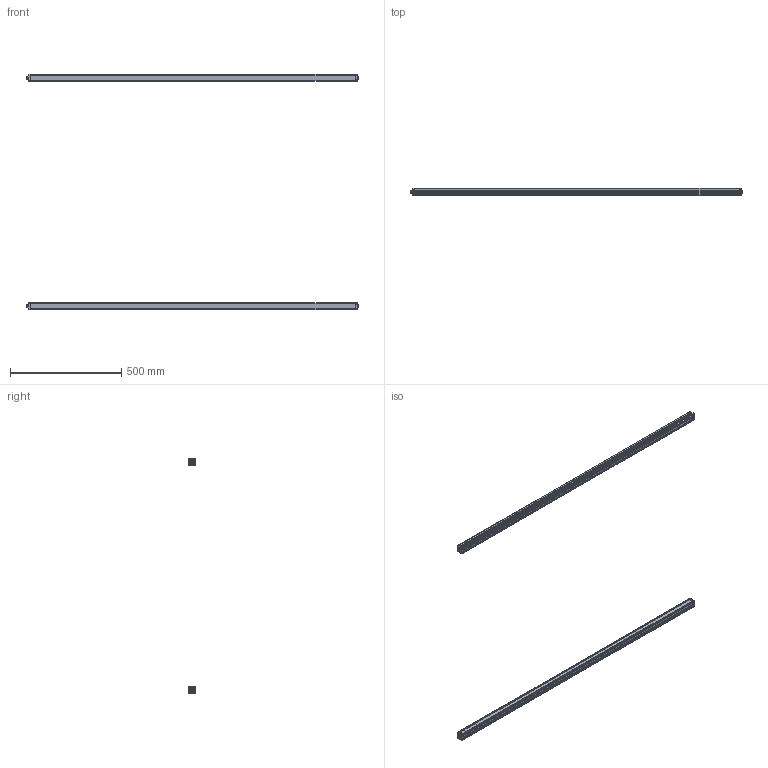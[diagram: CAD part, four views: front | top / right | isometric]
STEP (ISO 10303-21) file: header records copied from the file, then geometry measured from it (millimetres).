
FILE_DESCRIPTION(/* description */ (''),/* implementation_level */ '2;1');
FILE_NAME(/* name */ 'THS20-72.stp',/* time_stamp */ '2023-12-25T14:37:16+08:00',/* author */ (''),/* organization */ (''),/* preprocessor_version */ 'ST-DEVELOPER v16',/* originating_system */ 'SIEMENS PLM Software NX 11.0',/* authorisation */ '');
FILE_SCHEMA (('AP203_CONFIGURATION_CONTROLLED_3D_DESIGN_OF_MECHANICAL_PARTS_AND_ASSEMBLIES_MIM_LF { 1 0 10303 403 2 1 2}'));
Length unit declared in the file: millimetre
Products named in the file (10): 16; 14; 121125; 13; 102; 101; 111129; ASM0002_ASM; 0000_ASM1131; THS20-70_stp
Assembly tree (10 placements, depth 4):
  THS20-70_stp
    0000_ASM1131  x2
      111129
      101
      102
      13
      121125
      ASM0002_ASM
        14
        16
Bounding box: 1492 x 30.3 x 1058.6 mm (x, y, z)
Volume: 914284.2 mm3; surface area: 979821.9 mm2
Topology: 10 solids, 14 shells, 1080 faces, 3010 edges, 1986 vertices
Faces by surface type: plane 764, cylinder 288, cone 28
Entity records: 18484 total; most frequent: CARTESIAN_POINT 3097, ORIENTED_EDGE 3006, DIRECTION 2915, EDGE_CURVE 1505, LINE 1173, VECTOR 1173, VERTEX_POINT 993, AXIS2_PLACEMENT_3D 871
